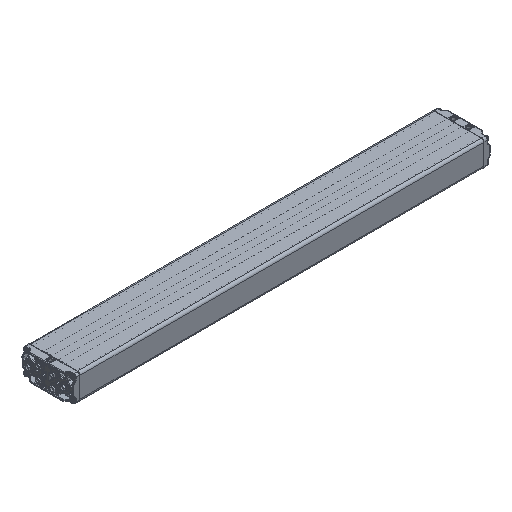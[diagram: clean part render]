
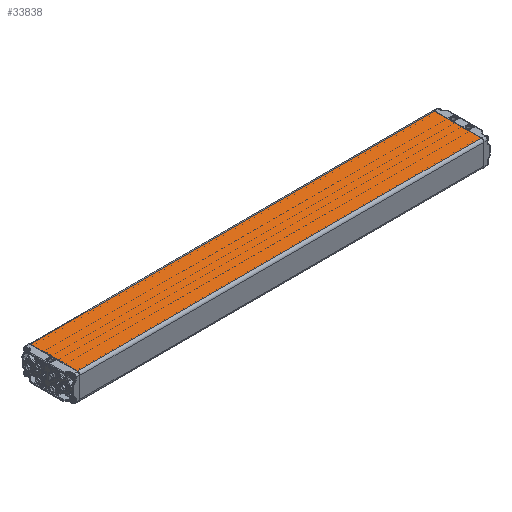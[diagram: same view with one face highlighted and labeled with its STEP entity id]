
A CAD part, isometric view. The second image highlights one B-rep face of the part: STEP entity #33838.
In plain terms, the highlighted planar face has unit normal (0, 0, 1).
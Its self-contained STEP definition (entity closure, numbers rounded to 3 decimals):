
#3526=LINE('',#72194,#4811);
#3527=LINE('',#72197,#4812);
#3528=LINE('',#72199,#4813);
#3529=LINE('',#72201,#4814);
#4811=VECTOR('',#41052,1000.);
#4812=VECTOR('',#41053,1000.);
#4813=VECTOR('',#41054,1000.);
#4814=VECTOR('',#41055,1000.);
#10108=ORIENTED_EDGE('',*,*,#16173,.T.);
#10109=ORIENTED_EDGE('',*,*,#16174,.T.);
#10110=ORIENTED_EDGE('',*,*,#16175,.T.);
#10111=ORIENTED_EDGE('',*,*,#16176,.T.);
#16173=EDGE_CURVE('',#19431,#19432,#3526,.F.);
#16174=EDGE_CURVE('',#19432,#19433,#3527,.T.);
#16175=EDGE_CURVE('',#19433,#19434,#3528,.T.);
#16176=EDGE_CURVE('',#19434,#19431,#3529,.F.);
#19431=VERTEX_POINT('',#72195);
#19432=VERTEX_POINT('',#72196);
#19433=VERTEX_POINT('',#72198);
#19434=VERTEX_POINT('',#72200);
#22917=EDGE_LOOP('',(#10108,#10109,#10110,#10111));
#24897=FACE_BOUND('',#22917,.T.);
#26031=PLANE('',#36096);
#33838=ADVANCED_FACE('',(#24897),#26031,.T.);
#36096=AXIS2_PLACEMENT_3D('',#72193,#41050,#41051);
#41050=DIRECTION('',(0.,0.,1.));
#41051=DIRECTION('',(1.,0.,0.));
#41052=DIRECTION('',(0.,-1.,0.));
#41053=DIRECTION('',(-1.,0.,0.));
#41054=DIRECTION('',(0.,-1.,0.));
#41055=DIRECTION('',(-1.,0.,0.));
#72193=CARTESIAN_POINT('',(60.,939.5,30.));
#72194=CARTESIAN_POINT('',(54.,939.5,30.));
#72195=CARTESIAN_POINT('',(54.,0.5,30.));
#72196=CARTESIAN_POINT('',(54.,939.,30.));
#72197=CARTESIAN_POINT('',(60.,939.,30.));
#72198=CARTESIAN_POINT('',(-54.,939.,30.));
#72199=CARTESIAN_POINT('',(-54.,939.5,30.));
#72200=CARTESIAN_POINT('',(-54.,0.5,30.));
#72201=CARTESIAN_POINT('',(54.,0.5,30.));
